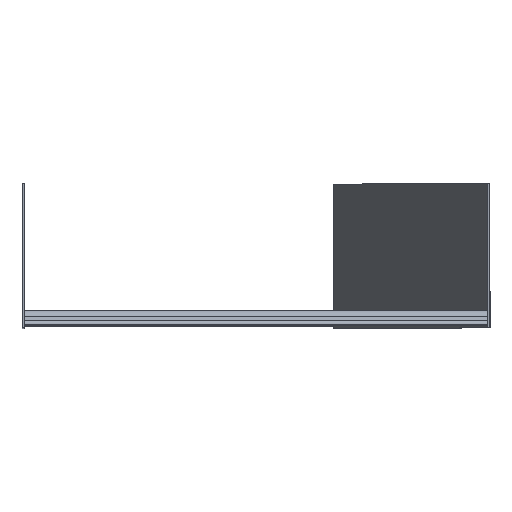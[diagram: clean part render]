
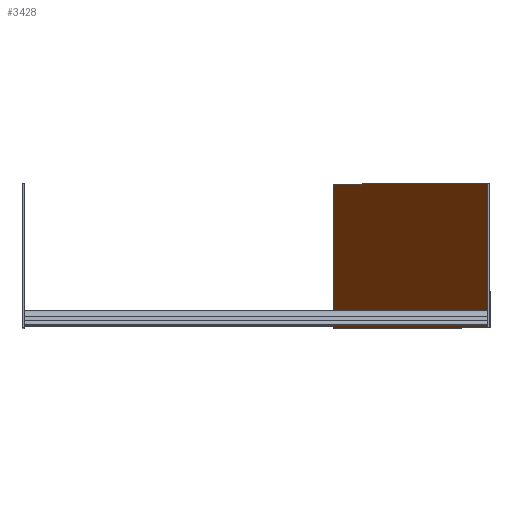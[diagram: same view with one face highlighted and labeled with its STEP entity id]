
A CAD part, top view. The second image highlights one B-rep face of the part: STEP entity #3428.
In plain terms, the highlighted planar face has unit normal (-0.881, 0, 0.472).
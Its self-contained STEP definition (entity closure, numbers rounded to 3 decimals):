
#109 = VECTOR ( 'NONE', #7536, 1000. ) ;
#111 = CARTESIAN_POINT ( 'NONE',  ( 150.415, 0., -279.226 ) ) ;
#114 = VERTEX_POINT ( 'NONE', #8056 ) ;
#246 = DIRECTION ( 'NONE',  ( -0.881, 0., 0.472 ) ) ;
#298 = ORIENTED_EDGE ( 'NONE', *, *, #2802, .F. ) ;
#1043 = FACE_OUTER_BOUND ( 'NONE', #9639, .T. ) ;
#1082 = EDGE_CURVE ( 'NONE', #1662, #114, #6828, .T. ) ;
#1224 = CARTESIAN_POINT ( 'NONE',  ( 300., 0., 0. ) ) ;
#1662 = VERTEX_POINT ( 'NONE', #7067 ) ;
#2338 = DIRECTION ( 'NONE',  ( -0.472, 0., -0.881 ) ) ;
#2769 = VECTOR ( 'NONE', #2338, 1000. ) ;
#2802 = EDGE_CURVE ( 'NONE', #9585, #1662, #6740, .T. ) ;
#2806 = ORIENTED_EDGE ( 'NONE', *, *, #9809, .T. ) ;
#2998 = LINE ( 'NONE', #4671, #2769 ) ;
#3078 = LINE ( 'NONE', #3897, #109 ) ;
#3428 = ADVANCED_FACE ( 'NONE', ( #1043 ), #5057, .T. ) ;
#3897 = CARTESIAN_POINT ( 'NONE',  ( 299.822, 0., -0.332 ) ) ;
#4165 = DIRECTION ( 'NONE',  ( 0.472, 0., 0.881 ) ) ;
#4671 = CARTESIAN_POINT ( 'NONE',  ( 300., 140., 0. ) ) ;
#5057 = PLANE ( 'NONE',  #9276 ) ;
#5841 = DIRECTION ( 'NONE',  ( -0.472, 0., -0.881 ) ) ;
#6127 = DIRECTION ( 'NONE',  ( 0., 1., 0. ) ) ;
#6232 = EDGE_CURVE ( 'NONE', #9585, #8981, #3078, .T. ) ;
#6234 = ORIENTED_EDGE ( 'NONE', *, *, #1082, .F. ) ;
#6740 = LINE ( 'NONE', #1224, #7846 ) ;
#6828 = LINE ( 'NONE', #111, #9515 ) ;
#7067 = CARTESIAN_POINT ( 'NONE',  ( 150.415, 0., -279.226 ) ) ;
#7071 = CARTESIAN_POINT ( 'NONE',  ( 299.822, 0., -0.332 ) ) ;
#7536 = DIRECTION ( 'NONE',  ( 0., 1., 0. ) ) ;
#7757 = ORIENTED_EDGE ( 'NONE', *, *, #6232, .T. ) ;
#7846 = VECTOR ( 'NONE', #5841, 1000. ) ;
#8056 = CARTESIAN_POINT ( 'NONE',  ( 150.415, 140., -279.226 ) ) ;
#8604 = CARTESIAN_POINT ( 'NONE',  ( 299.822, 140., -0.332 ) ) ;
#8709 = CARTESIAN_POINT ( 'NONE',  ( 300., 140., 0. ) ) ;
#8981 = VERTEX_POINT ( 'NONE', #8604 ) ;
#9276 = AXIS2_PLACEMENT_3D ( 'NONE', #8709, #246, #4165 ) ;
#9515 = VECTOR ( 'NONE', #6127, 1000. ) ;
#9585 = VERTEX_POINT ( 'NONE', #7071 ) ;
#9639 = EDGE_LOOP ( 'NONE', ( #6234, #298, #7757, #2806 ) ) ;
#9809 = EDGE_CURVE ( 'NONE', #8981, #114, #2998, .T. ) ;
